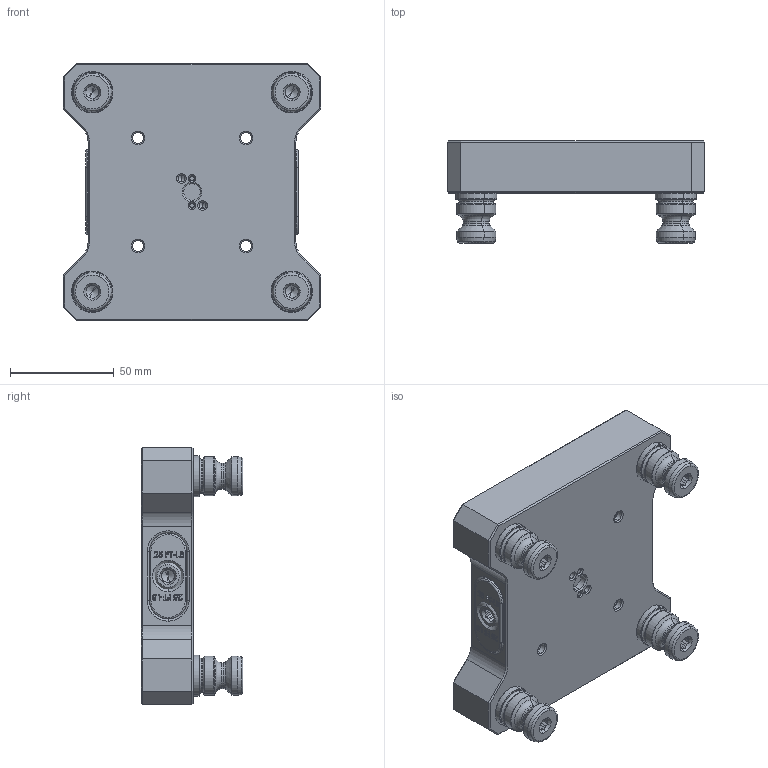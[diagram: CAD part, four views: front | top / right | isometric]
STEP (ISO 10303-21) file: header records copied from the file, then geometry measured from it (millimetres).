
FILE_DESCRIPTION (( 'STEP AP214' ), '1' );
FILE_NAME ('RL52A-A96.STEP', '2019-03-25T08:49:35', ( '' ), ( '' ), 'SwSTEP 2.0', 'SolidWorks 2018', '' );
FILE_SCHEMA (( 'AUTOMOTIVE_DESIGN' ));
Length unit declared in the file: inch
Products named in the file (9): PS20F-1_HARD TURN; SB43_SB43; RL52-3; 22X16.DB; 76296_91290A516; RL52A-A96; RL52-2R; RL52-1A96A_RL52-1A96A; RL52-2L
Assembly tree (18 placements, depth 2):
  RL52A-A96
    RL52-1A96A_RL52-1A96A
    RL52-2L
    RL52-2R
    RL52-3
    22X16.DB  x4
    SB43_SB43  x2
    76296_91290A516  x4
    PS20F-1_HARD TURN  x4
Bounding box: 124 x 49 x 124 mm (x, y, z)
Volume: 328363.4 mm3; surface area: 91480.4 mm2
Topology: 18 solids, 18 shells, 2358 faces, 5632 edges, 3378 vertices
Faces by surface type: plane 1147, cylinder 722, cone 254, torus 144, bspline 91
Entity records: 53842 total; most frequent: CARTESIAN_POINT 16022, ORIENTED_EDGE 6740, DIRECTION 6584, EDGE_CURVE 3370, AXIS2_PLACEMENT_3D 2319, VERTEX_POINT 2054, VECTOR 1946, LINE 1946
